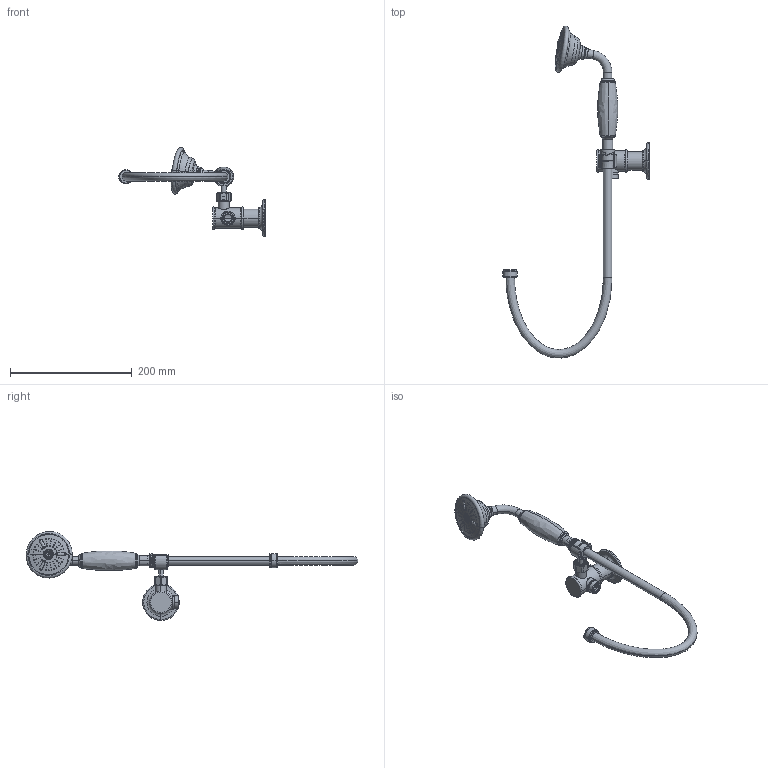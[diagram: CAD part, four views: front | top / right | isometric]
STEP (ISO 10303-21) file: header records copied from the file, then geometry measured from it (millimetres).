
FILE_DESCRIPTION(('FreeCAD Model'),'2;1');
FILE_NAME('Open CASCADE Shape Model','2025-05-30T12:00:59',('Author'),( ''),'Open CASCADE STEP processor 7.8','FreeCAD','Unknown');
FILE_SCHEMA(('AUTOMOTIVE_DESIGN { 1 0 10303 214 1 1 1 1 }'));
Length unit declared in the file: millimetre
Products named in the file (24): 6022025_ASM; 6022025-041_ASM; 6022025-042; 6022025-574; 8025053-442; 1153047-292; DS-M5X5-N; 6022025-552; 6022025-573; 6022025-553; 6022025-062; 6022025-671_ASM; 6022025-572; 6022025-672; 6029004002; 6029004; 6029004001; 6093021_ASM; 6092021004; 6092021; 6092021001; 6092021002; 6092021003; 6093021-082
Assembly tree (23 placements, depth 4):
  6022025_ASM
    6022025-041_ASM
      6022025-042
      6022025-574
    8025053-442
    1153047-292
    DS-M5X5-N
    6022025-552
    6022025-573
    6022025-553
    6022025-062
    6022025-671_ASM
      6022025-572
      6022025-672
    6029004002
      6029004
      6029004001
    6093021_ASM
      6092021004
        6092021
        6092021001
        6092021002
        6092021003
      6093021-082
Bounding box: 240.15 x 545.24 x 146.12 mm (x, y, z)
Volume: 179916.7 mm3; surface area: 151444.6 mm2
Topology: 18 solids, 19 shells, 1018 faces, 2638 edges, 1694 vertices
Faces by surface type: cylinder 449, plane 193, cone 137, bspline 103, torus 100, sphere 18, revolution 18
Entity records: 51440 total; most frequent: CARTESIAN_POINT 27095, ORIENTED_EDGE 5256, DIRECTION 4459, EDGE_CURVE 2628, AXIS2_PLACEMENT_3D 1829, VERTEX_POINT 1694, FACE_BOUND 1246, EDGE_LOOP 1246
